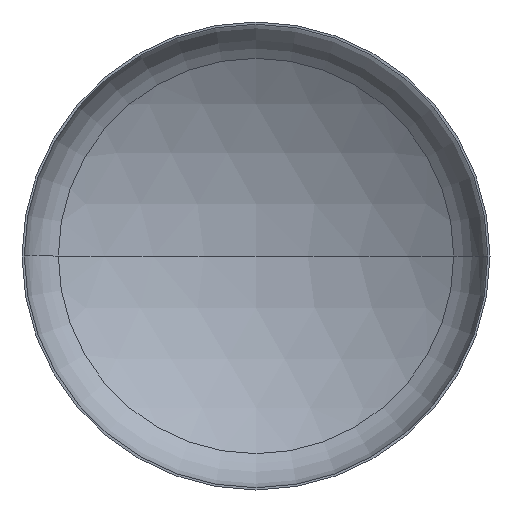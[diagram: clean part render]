
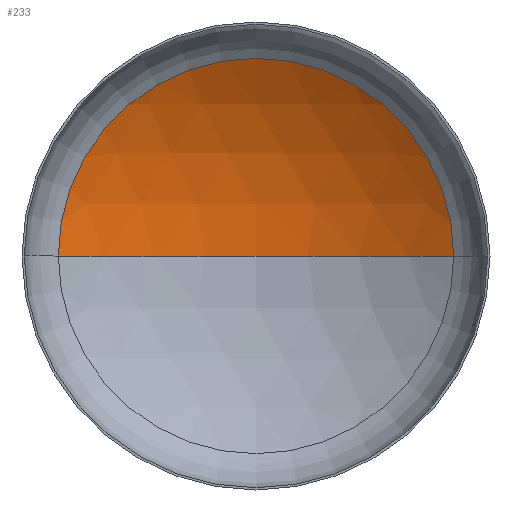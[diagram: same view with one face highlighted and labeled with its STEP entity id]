
A CAD part, front view. The second image highlights one B-rep face of the part: STEP entity #233.
In plain terms, the highlighted spherical face has radius 4800 mm.
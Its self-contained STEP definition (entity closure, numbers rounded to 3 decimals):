
#1 = VERTEX_POINT ( 'NONE', #276 ) ;
#33 = CARTESIAN_POINT ( 'NONE',  ( 0., -3200.822, 0. ) ) ;
#36 = ORIENTED_EDGE ( 'NONE', *, *, #172, .T. ) ;
#43 = ORIENTED_EDGE ( 'NONE', *, *, #174, .T. ) ;
#60 = VERTEX_POINT ( 'NONE', #277 ) ;
#63 = DIRECTION ( 'NONE',  ( -1., 0., 0. ) ) ;
#76 = AXIS2_PLACEMENT_3D ( 'NONE', #33, #234, #63 ) ;
#80 = EDGE_LOOP ( 'NONE', ( #90, #43, #36 ) ) ;
#90 = ORIENTED_EDGE ( 'NONE', *, *, #178, .F. ) ;
#116 = CARTESIAN_POINT ( 'NONE',  ( 2534.4, 875.551, 0. ) ) ;
#127 = AXIS2_PLACEMENT_3D ( 'NONE', #199, #346, #211 ) ;
#129 = AXIS2_PLACEMENT_3D ( 'NONE', #213, #208, #210 ) ;
#130 = AXIS2_PLACEMENT_3D ( 'NONE', #293, #292, #224 ) ;
#172 = EDGE_CURVE ( 'NONE', #398, #1, #384, .T. ) ;
#174 = EDGE_CURVE ( 'NONE', #60, #398, #331, .T. ) ;
#178 = EDGE_CURVE ( 'NONE', #60, #1, #206, .T. ) ;
#191 = FACE_OUTER_BOUND ( 'NONE', #80, .T. ) ;
#199 = CARTESIAN_POINT ( 'NONE',  ( 0., -3200.822, 0. ) ) ;
#206 = CIRCLE ( 'NONE', #127, 4800. ) ;
#208 = DIRECTION ( 'NONE',  ( 0., 0., -1. ) ) ;
#210 = DIRECTION ( 'NONE',  ( -1., 0., 0. ) ) ;
#211 = DIRECTION ( 'NONE',  ( 1., 0., 0. ) ) ;
#213 = CARTESIAN_POINT ( 'NONE',  ( 0., -3200.822, 0. ) ) ;
#224 = DIRECTION ( 'NONE',  ( 1., 0., 0. ) ) ;
#233 = ADVANCED_FACE ( 'NONE', ( #191 ), #253, .F. ) ;
#234 = DIRECTION ( 'NONE',  ( 0., 0., -1. ) ) ;
#253 = SPHERICAL_SURFACE ( 'NONE', #76, 4800. ) ;
#276 = CARTESIAN_POINT ( 'NONE',  ( -2534.4, 875.551, 0. ) ) ;
#277 = CARTESIAN_POINT ( 'NONE',  ( 0., 1599.178, 0. ) ) ;
#292 = DIRECTION ( 'NONE',  ( 0., -1., 0. ) ) ;
#293 = CARTESIAN_POINT ( 'NONE',  ( 0., 875.551, 0. ) ) ;
#331 = CIRCLE ( 'NONE', #129, 4800. ) ;
#346 = DIRECTION ( 'NONE',  ( 0., 0., 1. ) ) ;
#384 = CIRCLE ( 'NONE', #130, 2534.4 ) ;
#398 = VERTEX_POINT ( 'NONE', #116 ) ;
